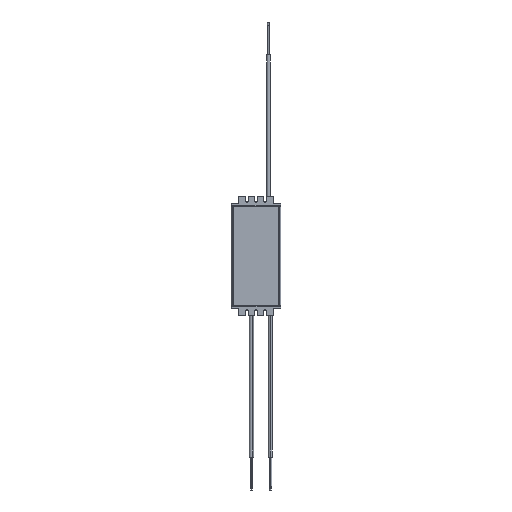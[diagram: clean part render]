
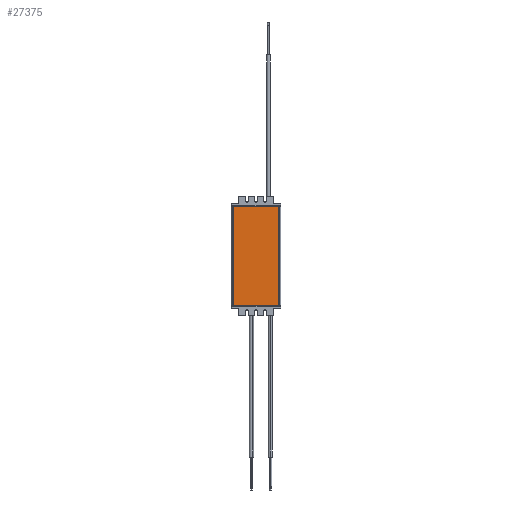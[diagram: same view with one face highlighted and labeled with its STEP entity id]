
A CAD part, front view. The second image highlights one B-rep face of the part: STEP entity #27375.
In plain terms, the highlighted planar face has unit normal (0, -1, 0).
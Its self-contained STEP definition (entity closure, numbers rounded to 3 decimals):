
#2143 = AXIS2_PLACEMENT_3D ( 'NONE', #33713, #33727, #33729 ) ;
#9353 = EDGE_LOOP ( 'NONE', ( #11863, #11864, #11865, #11866 ) ) ;
#10735 = EDGE_CURVE ( 'NONE', #20534, #20535, #15324, .T. ) ;
#10835 = EDGE_CURVE ( 'NONE', #20632, #20631, #15515, .T. ) ;
#10864 = EDGE_CURVE ( 'NONE', #20534, #20632, #15558, .T. ) ;
#10874 = EDGE_CURVE ( 'NONE', #20535, #20631, #15578, .T. ) ;
#11863 = ORIENTED_EDGE ( 'NONE', *, *, #10835, .T. ) ;
#11864 = ORIENTED_EDGE ( 'NONE', *, *, #10874, .F. ) ;
#11865 = ORIENTED_EDGE ( 'NONE', *, *, #10735, .F. ) ;
#11866 = ORIENTED_EDGE ( 'NONE', *, *, #10864, .T. ) ;
#14145 = CARTESIAN_POINT ( 'NONE',  ( 112.436, 110.04, 201. ) ) ;
#14146 = DIRECTION ( 'NONE',  ( 1., 0., 0. ) ) ;
#14359 = CARTESIAN_POINT ( 'NONE',  ( 112.436, 110.04, 0. ) ) ;
#14373 = DIRECTION ( 'NONE',  ( 1., 0., 0. ) ) ;
#14445 = CARTESIAN_POINT ( 'NONE',  ( 21.536, 110.04, 201. ) ) ;
#14446 = DIRECTION ( 'NONE',  ( 0., 0., -1. ) ) ;
#14465 = CARTESIAN_POINT ( 'NONE',  ( 112.436, 110.04, 201. ) ) ;
#14466 = DIRECTION ( 'NONE',  ( 0., 0., -1. ) ) ;
#15324 = LINE ( 'NONE', #14145, #15331 ) ;
#15331 = VECTOR ( 'NONE', #14146, 1000. ) ;
#15498 = VECTOR ( 'NONE', #14373, 1000. ) ;
#15515 = LINE ( 'NONE', #14359, #15498 ) ;
#15558 = LINE ( 'NONE', #14445, #15559 ) ;
#15559 = VECTOR ( 'NONE', #14446, 1000. ) ;
#15578 = LINE ( 'NONE', #14465, #15579 ) ;
#15579 = VECTOR ( 'NONE', #14466, 1000. ) ;
#20534 = VERTEX_POINT ( 'NONE', #35223 ) ;
#20535 = VERTEX_POINT ( 'NONE', #35225 ) ;
#20631 = VERTEX_POINT ( 'NONE', #35409 ) ;
#20632 = VERTEX_POINT ( 'NONE', #35411 ) ;
#27375 = ADVANCED_FACE ( 'NONE', ( #36092 ), #33715, .F. ) ;
#33713 = CARTESIAN_POINT ( 'NONE',  ( 112.436, 110.04, 201. ) ) ;
#33715 = PLANE ( 'NONE',  #2143 ) ;
#33727 = DIRECTION ( 'NONE',  ( 0., 1., 0. ) ) ;
#33729 = DIRECTION ( 'NONE',  ( 0., 0., 1. ) ) ;
#35223 = CARTESIAN_POINT ( 'NONE',  ( 21.536, 110.04, 201. ) ) ;
#35225 = CARTESIAN_POINT ( 'NONE',  ( 112.436, 110.04, 201. ) ) ;
#35409 = CARTESIAN_POINT ( 'NONE',  ( 112.436, 110.04, 0. ) ) ;
#35411 = CARTESIAN_POINT ( 'NONE',  ( 21.536, 110.04, 0. ) ) ;
#36092 = FACE_OUTER_BOUND ( 'NONE', #9353, .T. ) ;
